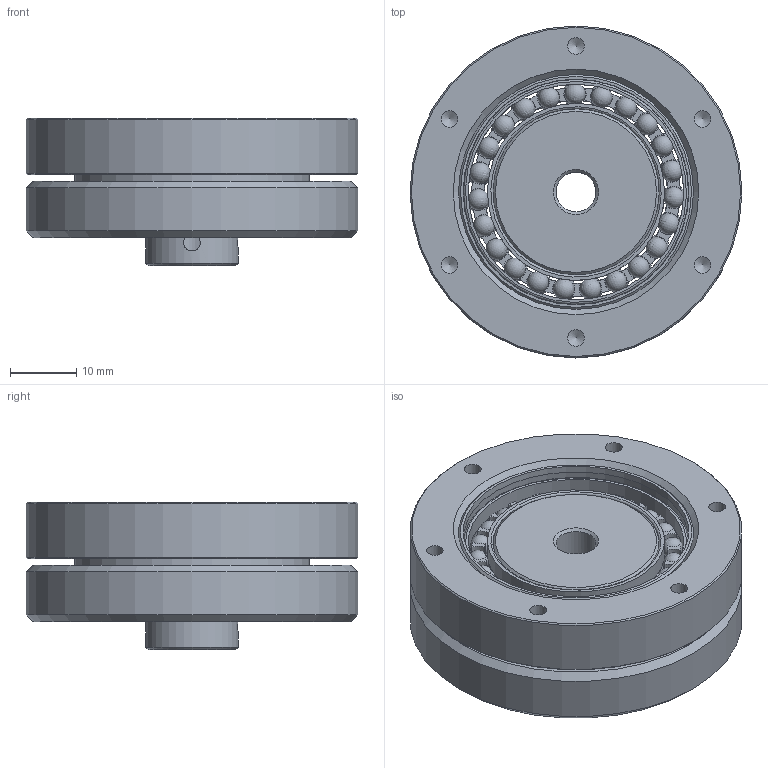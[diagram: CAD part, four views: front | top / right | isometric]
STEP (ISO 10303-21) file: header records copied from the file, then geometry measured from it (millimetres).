
FILE_DESCRIPTION (( 'STEP AP203' ), '1' );
FILE_NAME ('FDS-14-XXX-CJ.STEP', '2024-11-15T01:37:06', ( '微软用户' ), ( '微软中国' ), 'SwSTEP 2.0', 'SolidWorks 2016', '' );
FILE_SCHEMA (( 'CONFIG_CONTROL_DESIGN' ));
Length unit declared in the file: millimetre
Products named in the file (1): FDS-14-XXX-CJ
Bounding box: 50 x 50 x 22.25 mm (x, y, z)
Volume: 27490.8 mm3; surface area: 23887.4 mm2
Topology: 10 solids, 10 shells, 329 faces, 941 edges, 631 vertices
Faces by surface type: cylinder 131, plane 111, sphere 46, cone 29, torus 12
Full cylindrical faces by diameter (mm): 2.5 x14, 6 x1, 14 x1, 25.07 x3, 26.67 x4, 27.6 x2, 31.4 x2, 32.472 x4, 33.896 x2, 33.9 x1, 35.4 x3, 50 x2
Entity records: 9599 total; most frequent: DIRECTION 1862, CARTESIAN_POINT 1700, ORIENTED_EDGE 1394, AXIS2_PLACEMENT_3D 839, EDGE_CURVE 697, VERTEX_POINT 513, CIRCLE 509, EDGE_LOOP 478
